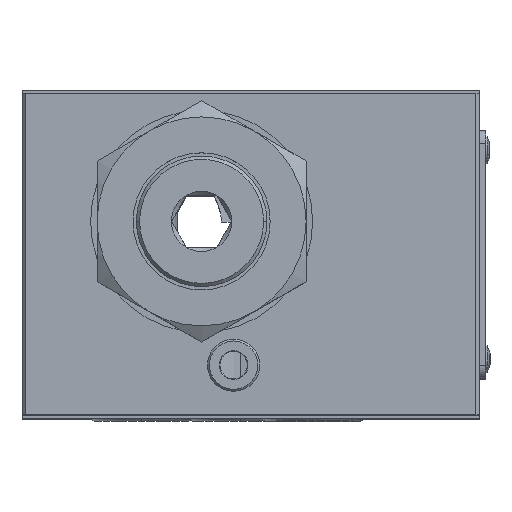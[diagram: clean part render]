
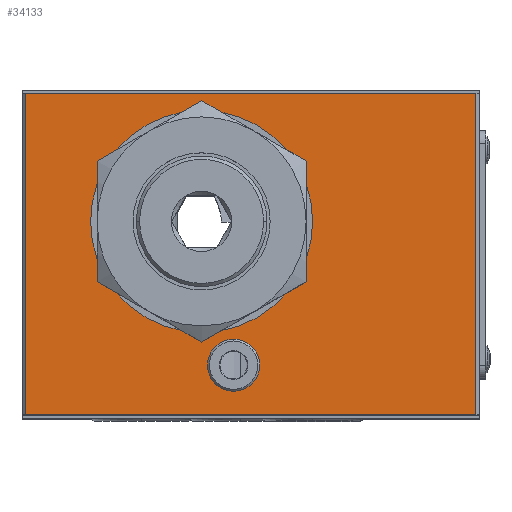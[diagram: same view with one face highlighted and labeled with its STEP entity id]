
A CAD part, top view. The second image highlights one B-rep face of the part: STEP entity #34133.
In plain terms, the highlighted planar face has unit normal (0, 0, 1).
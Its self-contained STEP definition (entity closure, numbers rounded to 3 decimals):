
#675 = ORIENTED_EDGE ( 'NONE', *, *, #29389, .T. ) ;
#737 = ORIENTED_EDGE ( 'NONE', *, *, #32149, .T. ) ;
#1729 = AXIS2_PLACEMENT_3D ( 'NONE', #26615, #41422, #58074 ) ;
#2803 = ORIENTED_EDGE ( 'NONE', *, *, #3103, .T. ) ;
#3103 = EDGE_CURVE ( 'NONE', #53850, #52896, #22893, .T. ) ;
#3651 = DIRECTION ( 'NONE',  ( -1., 0., 0. ) ) ;
#3934 = DIRECTION ( 'NONE',  ( -1., 0., 0. ) ) ;
#4027 = DIRECTION ( 'NONE',  ( 0., 1., 0. ) ) ;
#4078 = CARTESIAN_POINT ( 'NONE',  ( -34.5, 24.6, 62.5 ) ) ;
#4138 = EDGE_CURVE ( 'NONE', #62266, #20387, #37293, .T. ) ;
#4253 = CARTESIAN_POINT ( 'NONE',  ( 34.5, -25.1, 62.5 ) ) ;
#4356 = DIRECTION ( 'NONE',  ( 0., 0., -1. ) ) ;
#4620 = CARTESIAN_POINT ( 'NONE',  ( -7.5, 5., 62.5 ) ) ;
#5302 = CARTESIAN_POINT ( 'NONE',  ( -35., -24.6, 62.5 ) ) ;
#6107 = CARTESIAN_POINT ( 'NONE',  ( -34.5, -25.1, 62.5 ) ) ;
#6337 = CARTESIAN_POINT ( 'NONE',  ( -24.5, 5., 62.5 ) ) ;
#7107 = ORIENTED_EDGE ( 'NONE', *, *, #4138, .F. ) ;
#7573 = VERTEX_POINT ( 'NONE', #4078 ) ;
#8378 = LINE ( 'NONE', #4253, #47402 ) ;
#10001 = PLANE ( 'NONE',  #29123 ) ;
#14238 = LINE ( 'NONE', #6107, #52466 ) ;
#14547 = CARTESIAN_POINT ( 'NONE',  ( -6.6, -17., 62.5 ) ) ;
#14646 = DIRECTION ( 'NONE',  ( 0., 0., 1. ) ) ;
#20387 = VERTEX_POINT ( 'NONE', #41696 ) ;
#21110 = EDGE_CURVE ( 'NONE', #20387, #62266, #61126, .T. ) ;
#21336 = LINE ( 'NONE', #44464, #56418 ) ;
#21469 = DIRECTION ( 'NONE',  ( 0., -1., 0. ) ) ;
#22507 = DIRECTION ( 'NONE',  ( 1., 0., 0. ) ) ;
#22893 = LINE ( 'NONE', #5302, #48106 ) ;
#23031 = CIRCLE ( 'NONE', #1729, 17. ) ;
#23807 = EDGE_CURVE ( 'NONE', #54855, #51544, #23031, .T. ) ;
#25829 = AXIS2_PLACEMENT_3D ( 'NONE', #4620, #30674, #29998 ) ;
#26014 = AXIS2_PLACEMENT_3D ( 'NONE', #66774, #14646, #50579 ) ;
#26615 = CARTESIAN_POINT ( 'NONE',  ( -7.5, 5., 62.5 ) ) ;
#27697 = EDGE_LOOP ( 'NONE', ( #41437, #7107 ) ) ;
#29123 = AXIS2_PLACEMENT_3D ( 'NONE', #56190, #4356, #3934 ) ;
#29389 = EDGE_CURVE ( 'NONE', #51544, #54855, #44724, .T. ) ;
#29998 = DIRECTION ( 'NONE',  ( -1., 0., 0. ) ) ;
#30228 = CARTESIAN_POINT ( 'NONE',  ( 34.5, -24.6, 62.5 ) ) ;
#30674 = DIRECTION ( 'NONE',  ( 0., 0., -1. ) ) ;
#32149 = EDGE_CURVE ( 'NONE', #7573, #53850, #14238, .T. ) ;
#34133 = ADVANCED_FACE ( 'NONE', ( #50085, #52493, #66408 ), #10001, .F. ) ;
#37293 = CIRCLE ( 'NONE', #26014, 4. ) ;
#38182 = DIRECTION ( 'NONE',  ( 0., 0., 1. ) ) ;
#41422 = DIRECTION ( 'NONE',  ( 0., 0., -1. ) ) ;
#41437 = ORIENTED_EDGE ( 'NONE', *, *, #21110, .F. ) ;
#41485 = ORIENTED_EDGE ( 'NONE', *, *, #23807, .T. ) ;
#41585 = DIRECTION ( 'NONE',  ( 1., 0., 0. ) ) ;
#41696 = CARTESIAN_POINT ( 'NONE',  ( 1.4, -17., 62.5 ) ) ;
#42080 = CARTESIAN_POINT ( 'NONE',  ( -34.5, -24.6, 62.5 ) ) ;
#42665 = CARTESIAN_POINT ( 'NONE',  ( 9.5, 5., 62.5 ) ) ;
#42814 = CARTESIAN_POINT ( 'NONE',  ( 34.5, 24.6, 62.5 ) ) ;
#44464 = CARTESIAN_POINT ( 'NONE',  ( 35., 24.6, 62.5 ) ) ;
#44724 = CIRCLE ( 'NONE', #25829, 17. ) ;
#47402 = VECTOR ( 'NONE', #4027, 1000. ) ;
#47928 = ORIENTED_EDGE ( 'NONE', *, *, #52323, .T. ) ;
#48106 = VECTOR ( 'NONE', #41585, 1000. ) ;
#50085 = FACE_BOUND ( 'NONE', #27697, .T. ) ;
#50249 = EDGE_LOOP ( 'NONE', ( #675, #41485 ) ) ;
#50579 = DIRECTION ( 'NONE',  ( 1., 0., 0. ) ) ;
#51544 = VERTEX_POINT ( 'NONE', #42665 ) ;
#52323 = EDGE_CURVE ( 'NONE', #52896, #53529, #8378, .T. ) ;
#52466 = VECTOR ( 'NONE', #21469, 1000. ) ;
#52493 = FACE_BOUND ( 'NONE', #50249, .T. ) ;
#52896 = VERTEX_POINT ( 'NONE', #30228 ) ;
#53529 = VERTEX_POINT ( 'NONE', #42814 ) ;
#53850 = VERTEX_POINT ( 'NONE', #42080 ) ;
#54855 = VERTEX_POINT ( 'NONE', #6337 ) ;
#56190 = CARTESIAN_POINT ( 'NONE',  ( 35., -25.1, 62.5 ) ) ;
#56418 = VECTOR ( 'NONE', #3651, 1000. ) ;
#57451 = EDGE_CURVE ( 'NONE', #53529, #7573, #21336, .T. ) ;
#58074 = DIRECTION ( 'NONE',  ( -1., 0., 0. ) ) ;
#59204 = CARTESIAN_POINT ( 'NONE',  ( -2.6, -17., 62.5 ) ) ;
#60020 = AXIS2_PLACEMENT_3D ( 'NONE', #59204, #38182, #22507 ) ;
#60485 = ORIENTED_EDGE ( 'NONE', *, *, #57451, .T. ) ;
#61126 = CIRCLE ( 'NONE', #60020, 4. ) ;
#62266 = VERTEX_POINT ( 'NONE', #14547 ) ;
#62692 = EDGE_LOOP ( 'NONE', ( #2803, #47928, #60485, #737 ) ) ;
#66408 = FACE_OUTER_BOUND ( 'NONE', #62692, .T. ) ;
#66774 = CARTESIAN_POINT ( 'NONE',  ( -2.6, -17., 62.5 ) ) ;
